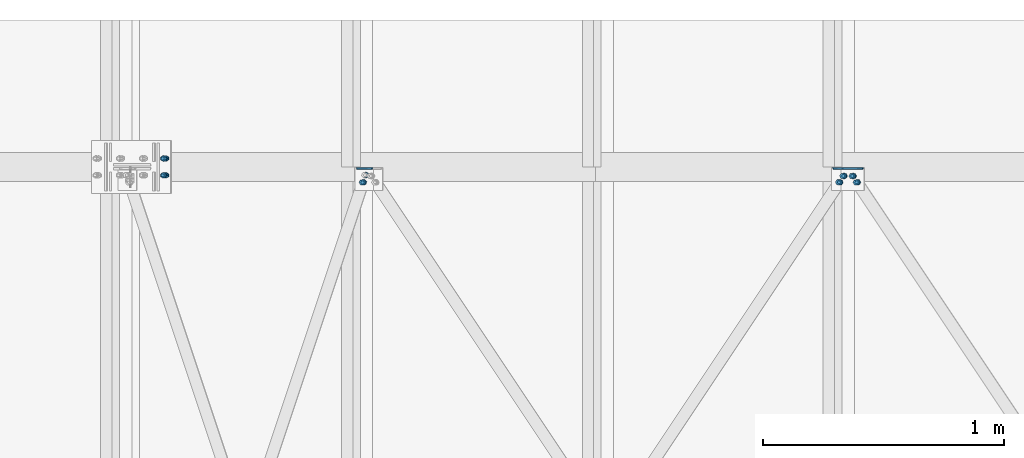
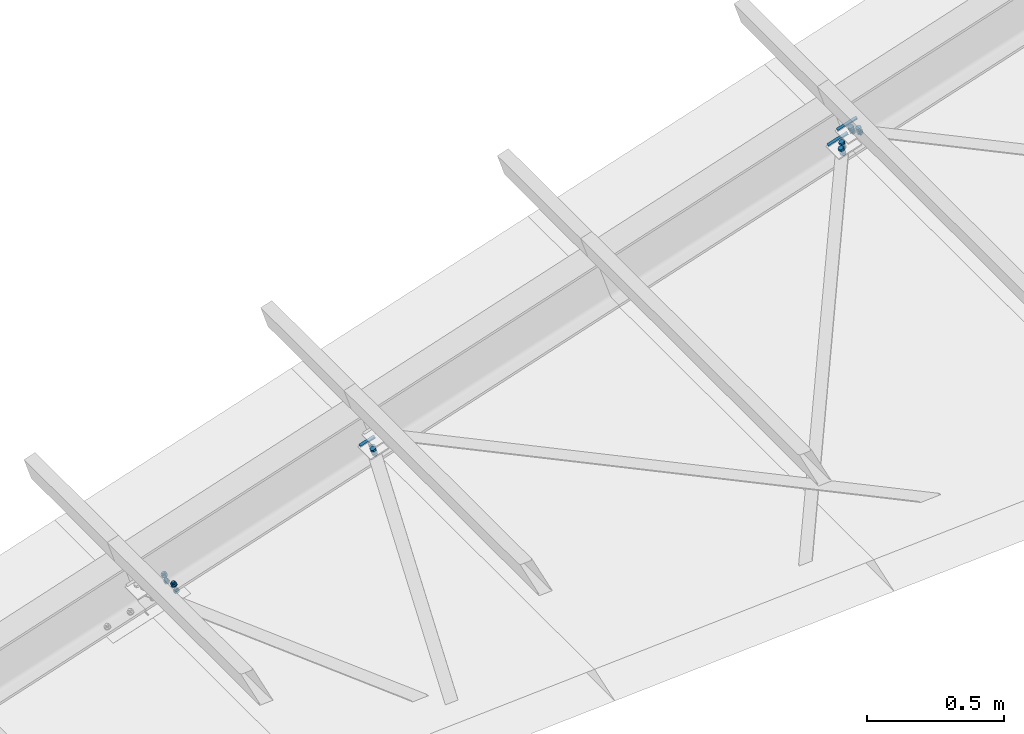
# One storey, part 39 of 53: 29 mechanical fasteners, 6 fasteners.
"""IFC4 building model written with IfcOpenShell, lengths in metres."""

import ifcopenshell
import ifcopenshell.guid

model = None  # the IFC model being written
_history = None  # IfcOwnerHistory: only IFC2X3 demands one
_inside = {}  # id of a spatial element -> (the spatial element, [elements in it])
_under = {}  # id of a project, library or spatial element -> (it, [spatial elements below it])
_declared = {}  # id of a project -> (the project, [libraries it declares])
_typed = {}  # id of a type object -> (the type object, [elements of that type])
_made_of = {}  # id of a material, layer set ... -> (it, [elements and type objects made of it])


def new_model(schema):
    """Start an empty IFC model of exactly this schema.

    Asked for "IFC4X3", IfcOpenShell would pick the latest addendum, in which some entities
    have other attributes; the version numbers below select the first issue.
    IFC2X3 requires an IfcOwnerHistory on every rooted entity: one is made here for all.
    """
    global model, _history
    if schema == "IFC4X3":
        model = ifcopenshell.file(schema_version=(4, 3, 0, 0))
    else:
        model = ifcopenshell.file(schema=schema)
    _inside.clear()
    _under.clear()
    _declared.clear()
    _typed.clear()
    _made_of.clear()
    _history = None
    if model.schema == "IFC2X3":
        org = make("IfcOrganization", Name="unknown")
        user = make(
            "IfcPersonAndOrganization",
            ThePerson=make("IfcPerson", FamilyName="unknown"),
            TheOrganization=org,
        )
        app = make(
            "IfcApplication",
            ApplicationDeveloper=org,
            Version="unknown",
            ApplicationFullName="unknown",
            ApplicationIdentifier="unknown",
        )
        _history = make(
            "IfcOwnerHistory",
            OwningUser=user,
            OwningApplication=app,
            ChangeAction="ADDED",
            CreationDate=0,
        )
    return model


def make(cls, **values):
    """One entity of the class cls with the attributes given. An attribute that is None is left unset."""
    return model.create_entity(
        cls, **{name: value for name, value in values.items() if value is not None}
    )


def rooted(cls, **values):
    """An entity with a GlobalId (a new one), such as an element, a storey or a relation."""
    return make(cls, GlobalId=ifcopenshell.guid.new(), OwnerHistory=_history, **values)


def si_unit(unit_type, name, prefix=None):
    """IfcSIUnit, for example si_unit("LENGTHUNIT", "METRE", prefix="MILLI")."""
    return make("IfcSIUnit", UnitType=unit_type, Prefix=prefix, Name=name)


def assignment(units):
    """IfcUnitAssignment: the units of a project."""
    return None if units is None else make("IfcUnitAssignment", Units=units)


def point(xyz):
    """IfcCartesianPoint."""
    return None if xyz is None else make("IfcCartesianPoint", Coordinates=xyz)


def direction(xyz):
    """IfcDirection."""
    return None if xyz is None else make("IfcDirection", DirectionRatios=xyz)


def frame(location, z_axis=None, x_axis=None):
    """IfcAxis2Placement3D, a coordinate frame: its origin and axes. An axis left out is left unset."""
    return make(
        "IfcAxis2Placement3D",
        Location=point(location),
        Axis=direction(z_axis),
        RefDirection=direction(x_axis),
    )


def origin_with_axes():
    """The frame at (0, 0, 0) with the z axis (0, 0, 1) and the x axis (1, 0, 0) written out."""
    return frame((0.0, 0.0, 0.0), z_axis=(0.0, 0.0, 1.0), x_axis=(1.0, 0.0, 0.0))


def place(relative_to, where):
    """IfcLocalPlacement: puts the frame where relative to a parent placement (None: the world)."""
    return make(
        "IfcLocalPlacement", PlacementRelTo=relative_to, RelativePlacement=where
    )


def context(
    kind, dimensions, precision=None, world=None, true_north=None, identifier=None
):
    """IfcGeometricRepresentationContext, for example the 3D "Model" context."""
    return make(
        "IfcGeometricRepresentationContext",
        ContextIdentifier=identifier,
        ContextType=kind,
        CoordinateSpaceDimension=dimensions,
        Precision=precision,
        WorldCoordinateSystem=world,
        TrueNorth=true_north,
    )


def project(units=None, contexts=None):
    """IfcProject with its units and contexts."""
    return rooted(
        "IfcProject",
        Name="project",
        RepresentationContexts=contexts,
        UnitsInContext=assignment(units),
    )


def spatial(cls, under=None, at=None, **own):
    """A site, building, storey or space (cls), placed at a placement, below another one or the project."""
    s = rooted(cls, ObjectPlacement=at, **own)
    if under is not None:
        _under.setdefault(under.id(), (under, []))[1].append(s)
    return s


def polyline(points):
    """IfcPolyline through the points."""
    return make("IfcPolyline", Points=[point(p) for p in points])


def outline(outer, holes=None, kind="AREA"):
    """IfcArbitraryClosedProfileDef: a profile drawn as a closed curve; with holes, ...WithVoids."""
    if holes is None:
        return make("IfcArbitraryClosedProfileDef", ProfileType=kind, OuterCurve=outer)
    return make(
        "IfcArbitraryProfileDefWithVoids",
        ProfileType=kind,
        OuterCurve=outer,
        InnerCurves=holes,
    )


def extrude(swept, where, along, depth):
    """IfcExtrudedAreaSolid: the profile swept, set in the frame where, extruded along a direction by depth."""
    return make(
        "IfcExtrudedAreaSolid",
        SweptArea=swept,
        Position=where,
        ExtrudedDirection=direction(along),
        Depth=depth,
    )


def shape(context_of_items, identifier, shape_type, items):
    """IfcShapeRepresentation: the items that make up one representation, for example the "Body"."""
    return make(
        "IfcShapeRepresentation",
        ContextOfItems=context_of_items,
        RepresentationIdentifier=identifier,
        RepresentationType=shape_type,
        Items=items,
    )


def made_of(thing, what):
    """Note that an element or type object is made of a material, layer set ...; save() writes the relation."""
    if what is not None:
        _made_of.setdefault(what.id(), (what, []))[1].append(thing)
    return thing


def type_object(cls, material=None, **own):
    """A type object (cls), such as IfcWallType, which elements share."""
    return made_of(rooted(cls, **own), material)


def element(
    cls,
    number,
    at=None,
    inside=None,
    cuts=None,
    type_object=None,
    material=None,
    context=None,
    identifier="Body",
    shape_type=None,
    held_by="IfcProductDefinitionShape",
    body=None,
    shapes=None,
    **own,
):
    """One element of the class cls, such as IfcWall. Its Tag is "e" and its number.

    at: its placement. inside: the storey or other place that contains it. cuts: it is an
    opening in that element (IfcRelVoidsElement). A single representation is given by context,
    identifier, shape_type and body (its items); several are given by shapes. held_by: the class
    of the entity that holds the representations. save() writes the other relations.
    """
    e = rooted(cls, Tag="e%d" % number, ObjectPlacement=at, **own)
    if body is not None:
        shapes = [shape(context, identifier, shape_type, body)]
    if shapes is not None:
        e.Representation = make(held_by, Representations=shapes)
    if inside is not None:
        _inside.setdefault(inside.id(), (inside, []))[1].append(e)
    if cuts is not None:
        rooted(
            "IfcRelVoidsElement", RelatingBuildingElement=cuts, RelatedOpeningElement=e
        )
    if type_object is not None:
        _typed.setdefault(type_object.id(), (type_object, []))[1].append(e)
    return made_of(e, material)


def aggregate(whole, parts):
    """IfcRelAggregates: a whole, such as a stair, and the parts it consists of."""
    return rooted("IfcRelAggregates", RelatingObject=whole, RelatedObjects=parts)


def save(model, path):
    """Write the relations noted so far, then the file.

    IfcRelAggregates (storeys below a building ...), IfcRelContainedInSpatialStructure (elements
    in a storey), IfcRelDefinesByType, IfcRelAssociatesMaterial and IfcRelDeclares: one each for
    every whole, place, type object, material and project.
    """
    for whole, parts in _under.values():
        aggregate(whole, parts)
    for where, things in _inside.values():
        rooted(
            "IfcRelContainedInSpatialStructure",
            RelatedElements=things,
            RelatingStructure=where,
        )
    for kind, things in _typed.values():
        rooted("IfcRelDefinesByType", RelatedObjects=things, RelatingType=kind)
    for what, things in _made_of.values():
        rooted("IfcRelAssociatesMaterial", RelatedObjects=things, RelatingMaterial=what)
    for by, libraries in _declared.values():
        rooted("IfcRelDeclares", RelatingContext=by, RelatedDefinitions=libraries)
    model.write(path)


model = new_model("IFC4")

# Units and contexts
model_context = context("Model", 3, precision=1e-05, world=origin_with_axes())
ifc_project = project(units=[si_unit("LENGTHUNIT", "METRE"), si_unit("AREAUNIT", "SQUARE_METRE"), si_unit("VOLUMEUNIT", "CUBIC_METRE"), si_unit("MASSUNIT", "GRAM", prefix="KILO"), si_unit("TIMEUNIT", "SECOND"), si_unit("PLANEANGLEUNIT", "RADIAN"), si_unit("SOLIDANGLEUNIT", "STERADIAN"), si_unit("THERMODYNAMICTEMPERATUREUNIT", "DEGREE_CELSIUS")], contexts=[model_context])

# Site, building, storey
placement_1 = place(None, origin_with_axes())
site = spatial("IfcSite", under=ifc_project, at=placement_1, Name="Italia", CompositionType="ELEMENT")
building = spatial("IfcBuilding", under=site, at=placement_1, Name="Capannone", CompositionType="ELEMENT")
storey_placement = place(None, frame((0.0, 0.0, 5.550000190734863), z_axis=(0.0, 0.0, 1.0), x_axis=(1.0, 0.0, 0.0)))
storey = spatial("IfcBuildingStorey", under=building, at=storey_placement, Name="Storey 1", CompositionType="ELEMENT", Elevation=5.550000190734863)

# Mechanical fasteners
mechanical_fastener_type_1 = type_object("IfcMechanicalFastenerType", Name="Collegamento -1057_0109", PredefinedType="BOLT")
placement_2 = place(placement_1, origin_with_axes())
mechanical_fastener_1_placement = place(placement_2, origin_with_axes())
element("IfcMechanicalFastener", 1, at=mechanical_fastener_1_placement, inside=storey, type_object=mechanical_fastener_type_1, Name="Collegamento -1057_0109", NominalDiameter=0.024, context=model_context, shape_type="SweptSolid", body=[
    extrude(outline(polyline([(0.0, 0.0), (-0.000409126, -0.00310588), (-0.00160789, -0.00600004), (-0.00351524, -0.00848532), (-0.00600052, -0.0103922), (-0.00889397, -0.0115912), (-0.0120001, -0.0119998), (-0.0151062, -0.0115912), (-0.0179996, -0.0103922), (-0.0204849, -0.00848532), (-0.0223923, -0.00600004), (-0.023591, -0.00310588), (-0.0240002, 0.0), (-0.023591, 0.00310588), (-0.0223923, 0.00600004), (-0.0204849, 0.00848532), (-0.0179996, 0.0103922), (-0.0151062, 0.0115912), (-0.0120001, 0.0119998), (-0.00889397, 0.0115912), (-0.00600052, 0.0103922), (-0.00351524, 0.00848532), (-0.00160789, 0.00600004), (-0.000409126, 0.00310588), (0.0, 0.0)])), frame((0.971334, 14.954, 5.92757), z_axis=(-0.312254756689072, 0.0, 0.949998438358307), x_axis=(0.0, -1.0, 0.0)), (0.0, 0.0, 1.0), 0.00199971),
])
mechanical_fastener_type_2 = type_object("IfcMechanicalFastenerType", Name="Collegamento -1057_0109", PredefinedType="BOLT")
mechanical_fastener_2_placement = place(placement_2, origin_with_axes())
element("IfcMechanicalFastener", 2, at=mechanical_fastener_2_placement, inside=storey, type_object=mechanical_fastener_type_2, Name="Collegamento -1057_0109", NominalDiameter=0.0119997, context=model_context, shape_type="SweptSolid", body=[
    extrude(outline(polyline([(0.0, 0.0), (-0.011323, 0.00397301), (-0.0204258, -0.00384688), (-0.0182047, -0.0156395), (-0.00688171, -0.0196123), (0.00222111, -0.0117927), (0.0, 0.0)])), frame((0.964952, 14.9267, 5.93811), z_axis=(-0.312143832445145, 0.0, 0.950034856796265), x_axis=(0.0, -1.0, 0.0)), (0.0, 0.0, 1.0), 0.00960014),
])
mechanical_fastener_type_3 = type_object("IfcMechanicalFastenerType", Name="Collegamento -1057_0109", PredefinedType="BOLT")
mechanical_fastener_3_placement = place(placement_2, origin_with_axes())
element("IfcMechanicalFastener", 3, at=mechanical_fastener_3_placement, inside=storey, type_object=mechanical_fastener_type_3, Name="Collegamento -1057_0109", NominalDiameter=0.012, context=model_context, shape_type="SweptSolid", body=[
    extrude(outline(polyline([(0.0, 0.0), (-0.000204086, -0.00155306), (-0.000802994, -0.00299978), (-0.00175667, -0.00424242), (-0.00299931, -0.00519609), (-0.00444698, -0.00579548), (-0.00599957, -0.0059998), (-0.00755215, -0.00579548), (-0.00899982, -0.00519609), (-0.0102425, -0.00424242), (-0.0111961, -0.00299978), (-0.011795, -0.00155306), (-0.0119991, 0.0), (-0.011795, 0.00155306), (-0.0111961, 0.00300002), (-0.0102425, 0.00424266), (-0.00899982, 0.00519633), (-0.00755215, 0.00579572), (-0.00599957, 0.00600004), (-0.00444698, 0.00579572), (-0.00299931, 0.00519633), (-0.00175667, 0.00424266), (-0.000802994, 0.00300002), (-0.000204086, 0.00155306), (0.0, 0.0)])), frame((0.966263, 14.9298, 5.90906), z_axis=(-0.31215426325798, 0.0, 0.950031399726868), x_axis=(0.0, -1.0, 0.0)), (0.0, 0.0, 1.0), 0.028),
])
mechanical_fastener_type_4 = type_object("IfcMechanicalFastenerType", Name="Collegamento -1057_0109", PredefinedType="BOLT")
mechanical_fastener_4_placement = place(placement_2, origin_with_axes())
element("IfcMechanicalFastener", 4, at=mechanical_fastener_4_placement, inside=storey, type_object=mechanical_fastener_type_4, Name="Collegamento -1057_0109", NominalDiameter=0.0119997, context=model_context, shape_type="SweptSolid", body=[
    extrude(outline(polyline([(0.0, 0.0), (-0.011323, 0.00397277), (-0.0204258, -0.00384688), (-0.0182047, -0.0156395), (-0.00688171, -0.0196126), (0.00222111, -0.0117927), (0.0, 0.0)])), frame((0.971695, 14.9267, 5.91759), z_axis=(-0.312149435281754, 0.0, 0.950033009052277), x_axis=(0.0, -1.0, 0.0)), (0.0, 0.0, 1.0), 0.00960016),
])
mechanical_fastener_type_5 = type_object("IfcMechanicalFastenerType", Name="Collegamento -1057_0109", PredefinedType="BOLT")
mechanical_fastener_5_placement = place(placement_2, origin_with_axes())
element("IfcMechanicalFastener", 5, at=mechanical_fastener_5_placement, inside=storey, type_object=mechanical_fastener_type_5, Name="Collegamento -1057_0109", NominalDiameter=0.024, context=model_context, shape_type="SweptSolid", body=[
    extrude(outline(polyline([(0.0, 0.0), (-0.000409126, -0.00310564), (-0.00160789, -0.0059998), (-0.00351524, -0.00848532), (-0.00600052, -0.0103922), (-0.00889397, -0.011591), (-0.0120001, -0.0119998), (-0.0151062, -0.011591), (-0.0179996, -0.0103922), (-0.0204849, -0.00848532), (-0.0223923, -0.0059998), (-0.023591, -0.00310564), (-0.0240002, 0.0), (-0.023591, 0.00310588), (-0.0223923, 0.00600004), (-0.0204849, 0.00848532), (-0.0179996, 0.0103924), (-0.0151062, 0.0115912), (-0.0120001, 0.0120003), (-0.00889397, 0.0115912), (-0.00600052, 0.0103924), (-0.00351524, 0.00848532), (-0.00160789, 0.00600004), (-0.000409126, 0.00310588), (0.0, 0.0)])), frame((0.961269, 14.9238, 5.92426), z_axis=(-0.31215712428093, 0.0, 0.950030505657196), x_axis=(0.0, -1.0, 0.0)), (0.0, 0.0, 1.0), 0.00200014),
])

# Fasteners
fastener_type_1 = type_object("IfcFastenerType", Name="Collegamento -1057_0109", PredefinedType="WELD")
fastener_1_placement = place(placement_2, origin_with_axes())
element("IfcFastener", 6, at=fastener_1_placement, inside=storey, type_object=fastener_type_1, Name="Collegamento -1057_0109", context=model_context, shape_type="SweptSolid", body=[
    extrude(outline(polyline([(0.0, 0.0), (-0.00717258, 0.00695801), (0.0, 0.00695801), (0.0, 0.0)])), frame((0.936915, 14.9969, 5.91636), z_axis=(0.950029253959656, 0.0, 0.312160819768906), x_axis=(0.0, 1.0, 0.0)), (0.0, 0.0, 1.0), 0.0660996),
])
fastener_type_2 = type_object("IfcFastenerType", Name="Collegamento -1057_0109", PredefinedType="WELD")
fastener_2_placement = place(placement_2, origin_with_axes())
element("IfcFastener", 7, at=fastener_2_placement, inside=storey, type_object=fastener_type_2, Name="Collegamento -1057_0109", context=model_context, shape_type="SweptSolid", body=[
    extrude(outline(polyline([(0.0, 0.0), (0.00717258, -0.00695753), (0.0, -0.00695753), (0.0, 0.0)])), frame((0.993837, 14.9969, 5.95487), z_axis=(-0.950031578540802, 0.0, -0.3121537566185), x_axis=(0.0, -1.0, 0.0)), (0.0, 0.0, 1.0), 0.0660995),
])

# Mechanical fasteners
mechanical_fastener_type_6 = type_object("IfcMechanicalFastenerType", Name="Collegamento -1089_-1055", PredefinedType="BOLT")
mechanical_fastener_6_placement = place(placement_2, origin_with_axes())
element("IfcMechanicalFastener", 8, at=mechanical_fastener_6_placement, inside=storey, type_object=mechanical_fastener_type_6, Name="Collegamento -1089_-1055", NominalDiameter=0.0119997, context=model_context, shape_type="SweptSolid", body=[
    extrude(outline(polyline([(0.0, 0.0), (-0.00982285, 0.00689316), (-0.0207043, 0.00183296), (-0.0217619, -0.0101204), (-0.011939, -0.0170135), (-0.00105858, -0.0119534), (0.0, 0.0)])), frame((2.95846, 14.9512, 6.59311), z_axis=(-0.312164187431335, 0.0, 0.95002818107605), x_axis=(0.0, -1.0, 0.0)), (0.0, 0.0, 1.0), 0.0095997),
])
mechanical_fastener_type_7 = type_object("IfcMechanicalFastenerType", Name="Collegamento -1089_-1055", PredefinedType="BOLT")
mechanical_fastener_7_placement = place(placement_2, origin_with_axes())
element("IfcMechanicalFastener", 9, at=mechanical_fastener_7_placement, inside=storey, type_object=mechanical_fastener_type_7, Name="Collegamento -1089_-1055", NominalDiameter=0.012, context=model_context, shape_type="SweptSolid", body=[
    extrude(outline(polyline([(0.0, 0.0), (-0.000204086, -0.00155258), (-0.000802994, -0.00299931), (-0.00175667, -0.00424242), (-0.00299931, -0.00519562), (-0.00444698, -0.00579548), (-0.00599957, -0.00599957), (-0.00755215, -0.00579548), (-0.00899982, -0.00519562), (-0.0102425, -0.00424242), (-0.0111961, -0.00299931), (-0.011795, -0.00155258), (-0.0119991, 0.0), (-0.011795, 0.00155354), (-0.0111961, 0.00300026), (-0.0102425, 0.0042429), (-0.00899982, 0.00519657), (-0.00755215, 0.00579596), (-0.00599957, 0.00600052), (-0.00444698, 0.00579596), (-0.00299931, 0.00519657), (-0.00175667, 0.0042429), (-0.000802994, 0.00300026), (-0.000204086, 0.00155354), (0.0, 0.0)])), frame((2.96239, 14.9561, 6.56493), z_axis=(-0.312158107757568, 0.0, 0.950030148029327), x_axis=(0.0, -1.0, 0.0)), (0.0, 0.0, 1.0), 0.028),
])
mechanical_fastener_type_8 = type_object("IfcMechanicalFastenerType", Name="Collegamento -1089_-1055", PredefinedType="BOLT")
mechanical_fastener_8_placement = place(placement_2, origin_with_axes())
element("IfcMechanicalFastener", 10, at=mechanical_fastener_8_placement, inside=storey, type_object=mechanical_fastener_type_8, Name="Collegamento -1089_-1055", NominalDiameter=0.0119997, context=model_context, shape_type="SweptSolid", body=[
    extrude(outline(polyline([(0.0, 0.0), (-0.00982285, 0.00689316), (-0.0207043, 0.00183201), (-0.0217619, -0.0101204), (-0.011939, -0.0170135), (-0.00105858, -0.0119534), (0.0, 0.0)])), frame((2.9652, 14.9512, 6.57259), z_axis=(-0.312164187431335, 0.0, 0.95002818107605), x_axis=(0.0, -1.0, 0.0)), (0.0, 0.0, 1.0), 0.0095997),
])
mechanical_fastener_type_9 = type_object("IfcMechanicalFastenerType", Name="Collegamento -1089_-1055", PredefinedType="BOLT")
mechanical_fastener_9_placement = place(placement_2, origin_with_axes())
element("IfcMechanicalFastener", 11, at=mechanical_fastener_9_placement, inside=storey, type_object=mechanical_fastener_type_9, Name="Collegamento -1089_-1055", NominalDiameter=0.024, context=model_context, shape_type="SweptSolid", body=[
    extrude(outline(polyline([(0.0, 0.0), (-0.000409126, -0.00310612), (-0.00160789, -0.00600052), (-0.00351524, -0.00848579), (-0.00600052, -0.0103922), (-0.00889397, -0.0115914), (-0.0120001, -0.0120001), (-0.0151062, -0.0115914), (-0.0179996, -0.0103922), (-0.0204849, -0.00848579), (-0.0223923, -0.00600052), (-0.023591, -0.00310612), (-0.0240002, 0.0), (-0.023591, 0.00310564), (-0.0223923, 0.00600004), (-0.0204849, 0.00848484), (-0.0179996, 0.0103922), (-0.0151062, 0.011591), (-0.0120001, 0.0119996), (-0.00889397, 0.011591), (-0.00600052, 0.0103922), (-0.00351524, 0.00848484), (-0.00160789, 0.00600004), (-0.000409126, 0.00310564), (0.0, 0.0)])), frame((2.95739, 14.9501, 6.58013), z_axis=(-0.312113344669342, 0.0, 0.950044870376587), x_axis=(0.0, -1.0, 0.0)), (0.0, 0.0, 1.0), 0.00200061),
])
mechanical_fastener_type_10 = type_object("IfcMechanicalFastenerType", Name="Collegamento -1089_-1055", PredefinedType="BOLT")
mechanical_fastener_10_placement = place(placement_2, origin_with_axes())
element("IfcMechanicalFastener", 12, at=mechanical_fastener_10_placement, inside=storey, type_object=mechanical_fastener_type_10, Name="Collegamento -1089_-1055", NominalDiameter=0.0119997, context=model_context, shape_type="SweptSolid", body=[
    extrude(outline(polyline([(0.0, 0.0), (-0.00982285, 0.00689316), (-0.0207033, 0.00183296), (-0.0217619, -0.0101204), (-0.011939, -0.0170135), (-0.00105762, -0.0119534), (0.0, 0.0)])), frame((2.94099, 14.925, 6.58738), z_axis=(-0.312164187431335, 0.0, 0.95002818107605), x_axis=(0.0, -1.0, 0.0)), (0.0, 0.0, 1.0), 0.0095997),
])
mechanical_fastener_type_11 = type_object("IfcMechanicalFastenerType", Name="Collegamento -1089_-1055", PredefinedType="BOLT")
mechanical_fastener_11_placement = place(placement_2, origin_with_axes())
element("IfcMechanicalFastener", 13, at=mechanical_fastener_11_placement, inside=storey, type_object=mechanical_fastener_type_11, Name="Collegamento -1089_-1055", NominalDiameter=0.012, context=model_context, shape_type="SweptSolid", body=[
    extrude(outline(polyline([(0.0, 0.0), (-0.000204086, -0.00155258), (-0.000802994, -0.00299931), (-0.00175667, -0.00424242), (-0.00299931, -0.00519562), (-0.00444698, -0.00579548), (-0.00599957, -0.00599957), (-0.00755215, -0.00579548), (-0.00899982, -0.00519562), (-0.0102425, -0.00424242), (-0.0111961, -0.00299931), (-0.011795, -0.00155258), (-0.0119991, 0.0), (-0.011795, 0.00155354), (-0.0111961, 0.00300026), (-0.0102425, 0.0042429), (-0.00899982, 0.00519657), (-0.00755215, 0.00579548), (-0.00599957, 0.00600052), (-0.00444698, 0.00579548), (-0.00299931, 0.00519657), (-0.00175667, 0.0042429), (-0.000802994, 0.00300026), (-0.000204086, 0.00155354), (0.0, 0.0)])), frame((2.94493, 14.9299, 6.5592), z_axis=(-0.312158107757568, 0.0, 0.950030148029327), x_axis=(0.0, -1.0, 0.0)), (0.0, 0.0, 1.0), 0.028),
])
mechanical_fastener_type_12 = type_object("IfcMechanicalFastenerType", Name="Collegamento -1089_-1055", PredefinedType="BOLT")
mechanical_fastener_12_placement = place(placement_2, origin_with_axes())
element("IfcMechanicalFastener", 14, at=mechanical_fastener_12_placement, inside=storey, type_object=mechanical_fastener_type_12, Name="Collegamento -1089_-1055", NominalDiameter=0.0119997, context=model_context, shape_type="SweptSolid", body=[
    extrude(outline(polyline([(0.0, 0.0), (-0.00982285, 0.00689268), (-0.0207033, 0.00183201), (-0.0217619, -0.0101204), (-0.011939, -0.0170135), (-0.00105762, -0.0119534), (0.0, 0.0)])), frame((2.94774, 14.925, 6.56686), z_axis=(-0.312164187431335, 0.0, 0.95002818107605), x_axis=(0.0, -1.0, 0.0)), (0.0, 0.0, 1.0), 0.0095997),
])
mechanical_fastener_type_13 = type_object("IfcMechanicalFastenerType", Name="Collegamento -1089_-1055", PredefinedType="BOLT")
mechanical_fastener_13_placement = place(placement_2, origin_with_axes())
element("IfcMechanicalFastener", 15, at=mechanical_fastener_13_placement, inside=storey, type_object=mechanical_fastener_type_13, Name="Collegamento -1089_-1055", NominalDiameter=0.024, context=model_context, shape_type="SweptSolid", body=[
    extrude(outline(polyline([(0.0, 0.0), (-0.000409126, -0.00310564), (-0.00160789, -0.00600004), (-0.00351524, -0.00848532), (-0.00600052, -0.0103922), (-0.00889397, -0.011591), (-0.0120001, -0.0119996), (-0.0151062, -0.011591), (-0.0179996, -0.0103922), (-0.0204849, -0.00848532), (-0.0223923, -0.00600004), (-0.023591, -0.00310564), (-0.0240002, 0.0), (-0.023591, 0.00310564), (-0.0223923, 0.00600004), (-0.0204849, 0.00848532), (-0.0179996, 0.0103927), (-0.0151062, 0.0115914), (-0.0120001, 0.0120001), (-0.00889397, 0.0115914), (-0.00600052, 0.0103927), (-0.00351524, 0.00848532), (-0.00160789, 0.00600004), (-0.000409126, 0.00310564), (0.0, 0.0)])), frame((2.93993, 14.9239, 6.5744), z_axis=(-0.312254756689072, 0.0, 0.949998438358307), x_axis=(0.0, -1.0, 0.0)), (0.0, 0.0, 1.0), 0.00199971),
])

# Fasteners
fastener_type_3 = type_object("IfcFastenerType", Name="Collegamento -1089_-1055", PredefinedType="WELD")
fastener_3_placement = place(placement_2, origin_with_axes())
element("IfcFastener", 16, at=fastener_3_placement, inside=storey, type_object=fastener_type_3, Name="Collegamento -1089_-1055", context=model_context, shape_type="SweptSolid", body=[
    extrude(outline(polyline([(0.0, 0.0), (-0.00717258, 0.00695801), (0.0, 0.00695801), (0.0, 0.0)])), frame((2.91498, 14.9969, 6.56629), z_axis=(0.950033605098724, 0.0, 0.31214764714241), x_axis=(0.0, 1.0, 0.0)), (0.0, 0.0, 1.0), 0.0880998),
])
fastener_type_4 = type_object("IfcFastenerType", Name="Collegamento -1089_-1055", PredefinedType="WELD")
fastener_4_placement = place(placement_2, origin_with_axes())
element("IfcFastener", 17, at=fastener_4_placement, inside=storey, type_object=fastener_type_4, Name="Collegamento -1089_-1055", context=model_context, shape_type="SweptSolid", body=[
    extrude(outline(polyline([(0.0, 0.0), (0.00717258, -0.00695801), (0.0, -0.00695801), (0.0, 0.0)])), frame((2.99281, 14.9969, 6.61167), z_axis=(-0.950031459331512, 0.0, -0.312154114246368), x_axis=(0.0, -1.0, 0.0)), (0.0, 0.0, 1.0), 0.0880995),
])

# Mechanical fasteners
mechanical_fastener_type_14 = type_object("IfcMechanicalFastenerType", Name="Collegamento -1089_-1119", PredefinedType="BOLT")
mechanical_fastener_14_placement = place(placement_2, origin_with_axes())
element("IfcMechanicalFastener", 18, at=mechanical_fastener_14_placement, inside=storey, type_object=mechanical_fastener_type_14, Name="Collegamento -1089_-1119", NominalDiameter=0.0119996, context=model_context, shape_type="SweptSolid", body=[
    extrude(outline(polyline([(0.0, 0.0), (-0.00982285, -0.00689316), (-0.00876522, -0.018846), (0.0021162, -0.0239062), (0.011939, -0.0170135), (0.0108805, -0.0050602), (0.0, 0.0)])), frame((3.00308, 14.9631, 6.64988), z_axis=(-0.312149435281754, 0.0, 0.950033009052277), x_axis=(0.0, -1.0, 0.0)), (0.0, 0.0, 1.0), 0.00960016),
])
mechanical_fastener_type_15 = type_object("IfcMechanicalFastenerType", Name="Collegamento -1089_-1119", PredefinedType="BOLT")
mechanical_fastener_15_placement = place(placement_2, origin_with_axes())
element("IfcMechanicalFastener", 19, at=mechanical_fastener_15_placement, inside=storey, type_object=mechanical_fastener_type_15, Name="Collegamento -1089_-1119", NominalDiameter=0.012, context=model_context, shape_type="SweptSolid", body=[
    extrude(outline(polyline([(0.0, 0.0), (-0.000204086, -0.00155306), (-0.000802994, -0.00300026), (-0.00175667, -0.00424242), (-0.00299931, -0.00519657), (-0.00444698, -0.00579548), (-0.00599957, -0.00600004), (-0.00755215, -0.00579548), (-0.00899982, -0.00519657), (-0.0102425, -0.00424242), (-0.0111961, -0.00300026), (-0.011795, -0.00155306), (-0.0119991, 0.0), (-0.011795, 0.00155306), (-0.0111961, 0.00300026), (-0.0102425, 0.0042429), (-0.00899982, 0.00519609), (-0.00755215, 0.00579548), (-0.00599957, 0.00600004), (-0.00444698, 0.00579548), (-0.00299931, 0.00519609), (-0.00175667, 0.0042429), (-0.000802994, 0.00300026), (-0.000204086, 0.00155306), (0.0, 0.0)])), frame((3.00047, 14.9561, 6.61955), z_axis=(-0.312158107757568, 0.0, 0.950030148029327), x_axis=(0.0, -1.0, 0.0)), (0.0, 0.0, 1.0), 0.028),
])
mechanical_fastener_type_16 = type_object("IfcMechanicalFastenerType", Name="Collegamento -1089_-1119", PredefinedType="BOLT")
mechanical_fastener_16_placement = place(placement_2, origin_with_axes())
element("IfcMechanicalFastener", 20, at=mechanical_fastener_16_placement, inside=storey, type_object=mechanical_fastener_type_16, Name="Collegamento -1089_-1119", NominalDiameter=0.0119996, context=model_context, shape_type="SweptSolid", body=[
    extrude(outline(polyline([(0.0, 0.0), (-0.00982285, -0.00689268), (-0.00876522, -0.018846), (0.0021162, -0.0239062), (0.011939, -0.0170135), (0.0108805, -0.0050602), (0.0, 0.0)])), frame((3.00982, 14.9631, 6.62936), z_axis=(-0.312149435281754, 0.0, 0.950033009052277), x_axis=(0.0, -1.0, 0.0)), (0.0, 0.0, 1.0), 0.00960016),
])
mechanical_fastener_type_17 = type_object("IfcMechanicalFastenerType", Name="Collegamento -1089_-1119", PredefinedType="BOLT")
mechanical_fastener_17_placement = place(placement_2, origin_with_axes())
element("IfcMechanicalFastener", 21, at=mechanical_fastener_17_placement, inside=storey, type_object=mechanical_fastener_type_17, Name="Collegamento -1089_-1119", NominalDiameter=0.024, context=model_context, shape_type="SweptSolid", body=[
    extrude(outline(polyline([(0.0, 0.0), (-0.000409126, -0.00310612), (-0.00160789, -0.00600004), (-0.00351524, -0.00848532), (-0.00600052, -0.0103922), (-0.00889397, -0.0115914), (-0.0120001, -0.0120001), (-0.0151062, -0.0115914), (-0.0179996, -0.0103922), (-0.0204849, -0.00848532), (-0.0223923, -0.00600004), (-0.023591, -0.00310612), (-0.0240002, 0.0), (-0.023591, 0.00310564), (-0.0223923, 0.00599957), (-0.0204849, 0.00848484), (-0.0179996, 0.0103922), (-0.0151062, 0.011591), (-0.0120001, 0.0120001), (-0.00889397, 0.011591), (-0.00600052, 0.0103922), (-0.00351524, 0.00848484), (-0.00160789, 0.00599957), (-0.000409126, 0.00310564), (0.0, 0.0)])), frame((2.99547, 14.9501, 6.63475), z_axis=(-0.312362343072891, 0.0, 0.94996303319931), x_axis=(0.0, -1.0, 0.0)), (0.0, 0.0, 1.0), 0.00199978),
])
mechanical_fastener_type_18 = type_object("IfcMechanicalFastenerType", Name="Collegamento -1089_-1119", PredefinedType="BOLT")
mechanical_fastener_18_placement = place(placement_2, origin_with_axes())
element("IfcMechanicalFastener", 22, at=mechanical_fastener_18_placement, inside=storey, type_object=mechanical_fastener_type_18, Name="Collegamento -1089_-1119", NominalDiameter=0.0119997, context=model_context, shape_type="SweptSolid", body=[
    extrude(outline(polyline([(0.0, 0.0), (-0.00982285, -0.00689316), (-0.00876427, -0.018846), (0.0021162, -0.0239062), (0.011939, -0.0170135), (0.0108814, -0.00505972), (0.0, 0.0)])), frame((3.02054, 14.9369, 6.65562), z_axis=(-0.312149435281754, 0.0, 0.950033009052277), x_axis=(0.0, -1.0, 0.0)), (0.0, 0.0, 1.0), 0.00960016),
])
mechanical_fastener_type_19 = type_object("IfcMechanicalFastenerType", Name="Collegamento -1089_-1119", PredefinedType="BOLT")
mechanical_fastener_19_placement = place(placement_2, origin_with_axes())
element("IfcMechanicalFastener", 23, at=mechanical_fastener_19_placement, inside=storey, type_object=mechanical_fastener_type_19, Name="Collegamento -1089_-1119", NominalDiameter=0.012, context=model_context, shape_type="SweptSolid", body=[
    extrude(outline(polyline([(0.0, 0.0), (-0.000204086, -0.00155258), (-0.000802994, -0.00299978), (-0.00175667, -0.00424194), (-0.00299931, -0.00519609), (-0.00444698, -0.00579548), (-0.00599957, -0.00599957), (-0.00755215, -0.00579548), (-0.00899982, -0.00519609), (-0.0102425, -0.00424194), (-0.0111961, -0.00299978), (-0.011795, -0.00155258), (-0.0119991, 0.0), (-0.011795, 0.00155354), (-0.0111961, 0.00300026), (-0.0102425, 0.0042429), (-0.00899982, 0.00519657), (-0.00755215, 0.00579596), (-0.00599957, 0.00600052), (-0.00444698, 0.00579596), (-0.00299931, 0.00519657), (-0.00175667, 0.0042429), (-0.000802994, 0.00300026), (-0.000204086, 0.00155354), (0.0, 0.0)])), frame((3.01793, 14.9299, 6.62529), z_axis=(-0.312158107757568, 0.0, 0.950030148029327), x_axis=(0.0, -1.0, 0.0)), (0.0, 0.0, 1.0), 0.028),
])
mechanical_fastener_type_20 = type_object("IfcMechanicalFastenerType", Name="Collegamento -1089_-1119", PredefinedType="BOLT")
mechanical_fastener_20_placement = place(placement_2, origin_with_axes())
element("IfcMechanicalFastener", 24, at=mechanical_fastener_20_placement, inside=storey, type_object=mechanical_fastener_type_20, Name="Collegamento -1089_-1119", NominalDiameter=0.0119997, context=model_context, shape_type="SweptSolid", body=[
    extrude(outline(polyline([(0.0, 0.0), (-0.00982285, -0.00689316), (-0.00876427, -0.018846), (0.0021162, -0.0239067), (0.011939, -0.017014), (0.0108814, -0.0050602), (0.0, 0.0)])), frame((3.02729, 14.9369, 6.6351), z_axis=(-0.312149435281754, 0.0, 0.950033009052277), x_axis=(0.0, -1.0, 0.0)), (0.0, 0.0, 1.0), 0.00960016),
])
mechanical_fastener_type_21 = type_object("IfcMechanicalFastenerType", Name="Collegamento -1089_-1119", PredefinedType="BOLT")
mechanical_fastener_21_placement = place(placement_2, origin_with_axes())
element("IfcMechanicalFastener", 25, at=mechanical_fastener_21_placement, inside=storey, type_object=mechanical_fastener_type_21, Name="Collegamento -1089_-1119", NominalDiameter=0.024, context=model_context, shape_type="SweptSolid", body=[
    extrude(outline(polyline([(0.0, 0.0), (-0.000409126, -0.00310564), (-0.00160789, -0.00599957), (-0.00351524, -0.00848484), (-0.00600052, -0.0103922), (-0.00889397, -0.011591), (-0.0120001, -0.0119996), (-0.0151062, -0.011591), (-0.0179996, -0.0103922), (-0.0204849, -0.00848484), (-0.0223923, -0.00599957), (-0.023591, -0.00310564), (-0.0240002, 0.0), (-0.023591, 0.00310612), (-0.0223923, 0.00600004), (-0.0204849, 0.00848532), (-0.0179996, 0.0103922), (-0.0151062, 0.011591), (-0.0120001, 0.0120001), (-0.00889397, 0.011591), (-0.00600052, 0.0103922), (-0.00351524, 0.00848532), (-0.00160789, 0.00600004), (-0.000409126, 0.00310612), (0.0, 0.0)])), frame((3.01293, 14.9239, 6.64049), z_axis=(-0.312291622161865, 0.0, 0.949986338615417), x_axis=(0.0, -1.0, 0.0)), (0.0, 0.0, 1.0), 0.00200024),
])

# Fasteners
fastener_type_5 = type_object("IfcFastenerType", Name="Collegamento -1089_-1119", PredefinedType="WELD")
fastener_5_placement = place(placement_2, origin_with_axes())
element("IfcFastener", 26, at=fastener_5_placement, inside=storey, type_object=fastener_type_5, Name="Collegamento -1089_-1119", context=model_context, shape_type="SweptSolid", body=[
    extrude(outline(polyline([(0.0, 0.0), (-0.00717258, 0.00695801), (0.0, 0.00695801), (0.0, 0.0)])), frame((2.95413, 14.9969, 6.62126), z_axis=(0.950033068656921, 0.0, 0.312149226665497), x_axis=(0.0, 1.0, 0.0)), (0.0, 0.0, 1.0), 0.0880994),
])
fastener_type_6 = type_object("IfcFastenerType", Name="Collegamento -1089_-1119", PredefinedType="WELD")
fastener_6_placement = place(placement_2, origin_with_axes())
element("IfcFastener", 27, at=fastener_6_placement, inside=storey, type_object=fastener_type_6, Name="Collegamento -1089_-1119", context=model_context, shape_type="SweptSolid", body=[
    extrude(outline(polyline([(0.0, 0.0), (0.00717258, -0.00695848), (0.0, -0.00695848), (0.0, 0.0)])), frame((3.03195, 14.9969, 6.66664), z_axis=(-0.950028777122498, 0.0, -0.312162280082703), x_axis=(0.0, -1.0, 0.0)), (0.0, 0.0, 1.0), 0.0881003),
])

# Mechanical fasteners
mechanical_fastener_type_22 = type_object("IfcMechanicalFastenerType", Name="Collegamenti 0101_0001 0103_0003 0105_0005 0107_0007 0109_0009 0111_0011", PredefinedType="BOLT")
mechanical_fastener_22_placement = place(placement_2, origin_with_axes())
element("IfcMechanicalFastener", 28, at=mechanical_fastener_22_placement, inside=storey, type_object=mechanical_fastener_type_22, Name="Collegamenti 0101_0001 0103_0003 0105_0005 0107_0007 0109_0009 0111_0011", NominalDiameter=0.0119998, context=model_context, shape_type="SweptSolid", body=[
    extrude(outline(polyline([(0.0, 0.0), (0.0120001, 0.0), (0.0179996, -0.0103923), (0.0120001, -0.0207845), (0.0, -0.0207845), (-0.00600052, -0.0103923), (0.0, 0.0)])), frame((0.15003, 15.029, 5.58351), z_axis=(0.312164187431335, 0.0, -0.95002818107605), x_axis=(0.0, 1.0, 0.0)), (0.0, 0.0, 1.0), 0.0095997),
])
mechanical_fastener_type_23 = type_object("IfcMechanicalFastenerType", Name="Collegamenti 0101_0001 0103_0003 0105_0005 0107_0007 0109_0009 0111_0011", PredefinedType="BOLT")
mechanical_fastener_23_placement = place(placement_2, origin_with_axes())
element("IfcMechanicalFastener", 29, at=mechanical_fastener_23_placement, inside=storey, type_object=mechanical_fastener_type_23, Name="Collegamenti 0101_0001 0103_0003 0105_0005 0107_0007 0109_0009 0111_0011", NominalDiameter=0.012, context=model_context, shape_type="SweptSolid", body=[
    extrude(outline(polyline([(0.0, 0.0), (-0.000204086, -0.00155306), (-0.000802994, -0.00300014), (-0.00175667, -0.00424266), (-0.00299931, -0.00519633), (-0.00444698, -0.00579572), (-0.00599957, -0.00600016), (-0.00755215, -0.00579572), (-0.00899982, -0.00519633), (-0.0102425, -0.00424266), (-0.0111961, -0.00300014), (-0.011795, -0.00155306), (-0.0119991, 0.0), (-0.011795, 0.00155294), (-0.0111961, 0.0029999), (-0.0102425, 0.00424254), (-0.00899982, 0.00519609), (-0.00755215, 0.00579548), (-0.00599957, 0.00599992), (-0.00444698, 0.00579548), (-0.00299931, 0.00519609), (-0.00175667, 0.00424254), (-0.000802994, 0.0029999), (-0.000204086, 0.00155294), (0.0, 0.0)])), frame((0.126797, 15.041, 5.62092), z_axis=(0.312151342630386, 0.0, -0.950032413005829), x_axis=(0.0, 1.0, 0.0)), (0.0, 0.0, 1.0), 0.0428004),
])
mechanical_fastener_type_24 = type_object("IfcMechanicalFastenerType", Name="Collegamenti 0101_0001 0103_0003 0105_0005 0107_0007 0109_0009 0111_0011", PredefinedType="BOLT")
mechanical_fastener_24_placement = place(placement_2, origin_with_axes())
element("IfcMechanicalFastener", 30, at=mechanical_fastener_24_placement, inside=storey, type_object=mechanical_fastener_type_24, Name="Collegamenti 0101_0001 0103_0003 0105_0005 0107_0007 0109_0009 0111_0011", NominalDiameter=0.0119998, context=model_context, shape_type="SweptSolid", body=[
    extrude(outline(polyline([(0.0, 0.0), (0.0120001, 0.0), (0.0179996, -0.0103924), (0.0120001, -0.0207846), (0.0, -0.0207846), (-0.00600052, -0.0103924), (0.0, 0.0)])), frame((0.138667, 15.029, 5.61809), z_axis=(0.312164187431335, 0.0, -0.95002818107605), x_axis=(0.0, 1.0, 0.0)), (0.0, 0.0, 1.0), 0.0095997),
])
mechanical_fastener_type_25 = type_object("IfcMechanicalFastenerType", Name="Collegamenti 0101_0001 0103_0003 0105_0005 0107_0007 0109_0009 0111_0011", PredefinedType="BOLT")
mechanical_fastener_25_placement = place(placement_2, origin_with_axes())
element("IfcMechanicalFastener", 31, at=mechanical_fastener_25_placement, inside=storey, type_object=mechanical_fastener_type_25, Name="Collegamenti 0101_0001 0103_0003 0105_0005 0107_0007 0109_0009 0111_0011", NominalDiameter=0.024, context=model_context, shape_type="SweptSolid", body=[
    extrude(outline(polyline([(0.0, 0.0), (-0.000409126, -0.00310588), (-0.00160789, -0.00600004), (-0.00351524, -0.00848532), (-0.00600052, -0.0103923), (-0.00889397, -0.0115911), (-0.0120001, -0.012), (-0.0151062, -0.0115911), (-0.0179996, -0.0103923), (-0.0204849, -0.00848532), (-0.0223923, -0.00600004), (-0.023591, -0.00310588), (-0.0240002, 0.0), (-0.023591, 0.00310588), (-0.0223923, 0.00600004), (-0.0204849, 0.0084852), (-0.0179996, 0.0103923), (-0.0151062, 0.0115912), (-0.0120001, 0.012), (-0.00889397, 0.0115912), (-0.00600052, 0.0103923), (-0.00351524, 0.0084852), (-0.00160789, 0.00600004), (-0.000409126, 0.00310588), (0.0, 0.0)])), frame((0.131791, 15.047, 5.60572), z_axis=(0.312059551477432, 0.0, -0.95006251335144), x_axis=(0.0, 1.0, 0.0)), (0.0, 0.0, 1.0), 0.00200058),
])
mechanical_fastener_type_26 = type_object("IfcMechanicalFastenerType", Name="Collegamenti 0101_0001 0103_0003 0105_0005 0107_0007 0109_0009 0111_0011", PredefinedType="BOLT")
mechanical_fastener_26_placement = place(placement_2, origin_with_axes())
element("IfcMechanicalFastener", 32, at=mechanical_fastener_26_placement, inside=storey, type_object=mechanical_fastener_type_26, Name="Collegamenti 0101_0001 0103_0003 0105_0005 0107_0007 0109_0009 0111_0011", NominalDiameter=0.0119998, context=model_context, shape_type="SweptSolid", body=[
    extrude(outline(polyline([(0.0, 0.0), (0.0120001, 0.0), (0.0180006, -0.0103923), (0.0120001, -0.0207845), (0.0, -0.0207845), (-0.00599957, -0.0103923), (0.0, 0.0)])), frame((0.15003, 14.959, 5.58351), z_axis=(0.312164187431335, 0.0, -0.95002818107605), x_axis=(0.0, 1.0, 0.0)), (0.0, 0.0, 1.0), 0.0095997),
])
mechanical_fastener_type_27 = type_object("IfcMechanicalFastenerType", Name="Collegamenti 0101_0001 0103_0003 0105_0005 0107_0007 0109_0009 0111_0011", PredefinedType="BOLT")
mechanical_fastener_27_placement = place(placement_2, origin_with_axes())
element("IfcMechanicalFastener", 33, at=mechanical_fastener_27_placement, inside=storey, type_object=mechanical_fastener_type_27, Name="Collegamenti 0101_0001 0103_0003 0105_0005 0107_0007 0109_0009 0111_0011", NominalDiameter=0.012, context=model_context, shape_type="SweptSolid", body=[
    extrude(outline(polyline([(0.0, 0.0), (-0.000204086, -0.00155306), (-0.000802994, -0.00300014), (-0.00175667, -0.00424266), (-0.00299931, -0.00519633), (-0.00444698, -0.00579572), (-0.00599957, -0.00600016), (-0.00755215, -0.00579572), (-0.00899982, -0.00519633), (-0.0102425, -0.00424266), (-0.0111961, -0.00300014), (-0.011795, -0.00155306), (-0.0119991, 0.0), (-0.011795, 0.00155294), (-0.0111961, 0.0029999), (-0.0102425, 0.00424254), (-0.00899982, 0.00519609), (-0.00755215, 0.00579548), (-0.00599957, 0.00599992), (-0.00444698, 0.00579548), (-0.00299931, 0.00519609), (-0.00175667, 0.00424254), (-0.000802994, 0.0029999), (-0.000204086, 0.00155294), (0.0, 0.0)])), frame((0.126797, 14.971, 5.62092), z_axis=(0.312151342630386, 0.0, -0.950032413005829), x_axis=(0.0, 1.0, 0.0)), (0.0, 0.0, 1.0), 0.0428004),
])
mechanical_fastener_type_28 = type_object("IfcMechanicalFastenerType", Name="Collegamenti 0101_0001 0103_0003 0105_0005 0107_0007 0109_0009 0111_0011", PredefinedType="BOLT")
mechanical_fastener_28_placement = place(placement_2, origin_with_axes())
element("IfcMechanicalFastener", 34, at=mechanical_fastener_28_placement, inside=storey, type_object=mechanical_fastener_type_28, Name="Collegamenti 0101_0001 0103_0003 0105_0005 0107_0007 0109_0009 0111_0011", NominalDiameter=0.0119998, context=model_context, shape_type="SweptSolid", body=[
    extrude(outline(polyline([(0.0, 0.0), (0.0120001, 0.0), (0.0180006, -0.0103924), (0.0120001, -0.0207846), (0.0, -0.0207846), (-0.00599957, -0.0103924), (0.0, 0.0)])), frame((0.138667, 14.959, 5.61809), z_axis=(0.312164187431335, 0.0, -0.95002818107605), x_axis=(0.0, 1.0, 0.0)), (0.0, 0.0, 1.0), 0.0095997),
])
mechanical_fastener_type_29 = type_object("IfcMechanicalFastenerType", Name="Collegamenti 0101_0001 0103_0003 0105_0005 0107_0007 0109_0009 0111_0011", PredefinedType="BOLT")
mechanical_fastener_29_placement = place(placement_2, origin_with_axes())
element("IfcMechanicalFastener", 35, at=mechanical_fastener_29_placement, inside=storey, type_object=mechanical_fastener_type_29, Name="Collegamenti 0101_0001 0103_0003 0105_0005 0107_0007 0109_0009 0111_0011", NominalDiameter=0.024, context=model_context, shape_type="SweptSolid", body=[
    extrude(outline(polyline([(0.0, 0.0), (-0.000409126, -0.00310588), (-0.00160789, -0.00600004), (-0.00351524, -0.00848532), (-0.00600052, -0.0103923), (-0.00889397, -0.0115911), (-0.0120001, -0.012), (-0.0151062, -0.0115911), (-0.0179996, -0.0103923), (-0.0204849, -0.00848532), (-0.0223923, -0.00600004), (-0.023591, -0.00310588), (-0.0240002, 0.0), (-0.023591, 0.00310588), (-0.0223923, 0.00600004), (-0.0204849, 0.0084852), (-0.0179996, 0.0103923), (-0.0151062, 0.0115912), (-0.0120001, 0.012), (-0.00889397, 0.0115912), (-0.00600052, 0.0103923), (-0.00351524, 0.0084852), (-0.00160789, 0.00600004), (-0.000409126, 0.00310588), (0.0, 0.0)])), frame((0.131791, 14.977, 5.60572), z_axis=(0.312059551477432, 0.0, -0.95006251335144), x_axis=(0.0, 1.0, 0.0)), (0.0, 0.0, 1.0), 0.00200058),
])

save(model, "model.ifc")
